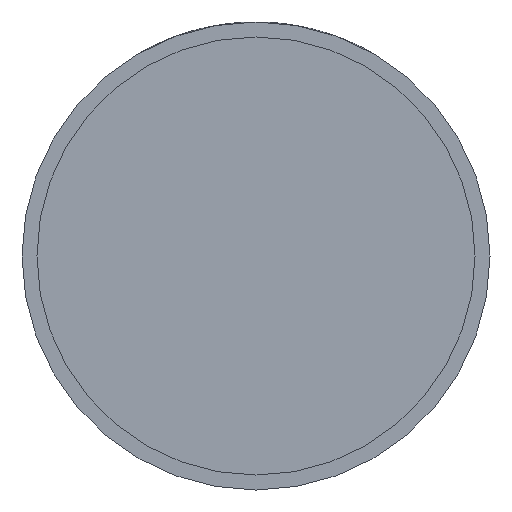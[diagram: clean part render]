
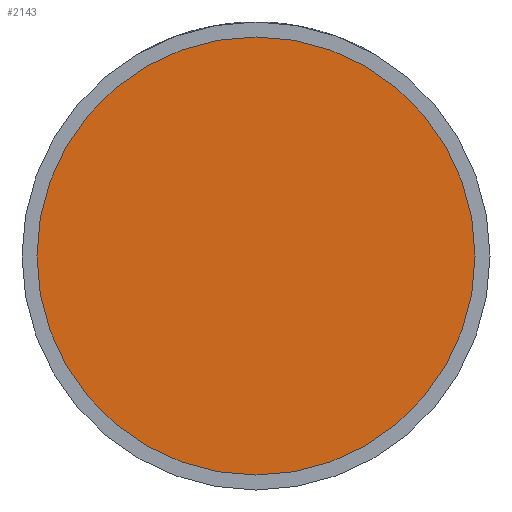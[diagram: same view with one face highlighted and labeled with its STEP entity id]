
A CAD part, front view. The second image highlights one B-rep face of the part: STEP entity #2143.
In plain terms, the highlighted planar face has unit normal (0, -1, 0).
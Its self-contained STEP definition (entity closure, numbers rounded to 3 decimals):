
#14 = ORIENTED_EDGE ( 'NONE', *, *, #3525, .T. ) ;
#443 = AXIS2_PLACEMENT_3D ( 'NONE', #608, #4251, #2856 ) ;
#603 = CARTESIAN_POINT ( 'NONE',  ( 0., -20., 0. ) ) ;
#608 = CARTESIAN_POINT ( 'NONE',  ( 33.7, -20., 0. ) ) ;
#644 = DIRECTION ( 'NONE',  ( 0., -1., 0. ) ) ;
#1082 = CIRCLE ( 'NONE', #2374, 33.7 ) ;
#1256 = PLANE ( 'NONE',  #443 ) ;
#1736 = EDGE_LOOP ( 'NONE', ( #14, #3983 ) ) ;
#1854 = EDGE_CURVE ( 'NONE', #2500, #2372, #4122, .T. ) ;
#2143 = ADVANCED_FACE ( 'NONE', ( #3184 ), #1256, .T. ) ;
#2372 = VERTEX_POINT ( 'NONE', #3657 ) ;
#2374 = AXIS2_PLACEMENT_3D ( 'NONE', #603, #644, #3310 ) ;
#2378 = CARTESIAN_POINT ( 'NONE',  ( -33.7, -20., 0. ) ) ;
#2491 = DIRECTION ( 'NONE',  ( 1., 0., 0. ) ) ;
#2500 = VERTEX_POINT ( 'NONE', #2378 ) ;
#2755 = DIRECTION ( 'NONE',  ( 0., -1., 0. ) ) ;
#2856 = DIRECTION ( 'NONE',  ( 1., 0., 0. ) ) ;
#3141 = AXIS2_PLACEMENT_3D ( 'NONE', #3735, #2755, #2491 ) ;
#3184 = FACE_OUTER_BOUND ( 'NONE', #1736, .T. ) ;
#3310 = DIRECTION ( 'NONE',  ( 1., 0., 0. ) ) ;
#3525 = EDGE_CURVE ( 'NONE', #2372, #2500, #1082, .T. ) ;
#3657 = CARTESIAN_POINT ( 'NONE',  ( 33.7, -20., 0. ) ) ;
#3735 = CARTESIAN_POINT ( 'NONE',  ( 0., -20., 0. ) ) ;
#3983 = ORIENTED_EDGE ( 'NONE', *, *, #1854, .T. ) ;
#4122 = CIRCLE ( 'NONE', #3141, 33.7 ) ;
#4251 = DIRECTION ( 'NONE',  ( 0., -1., 0. ) ) ;
